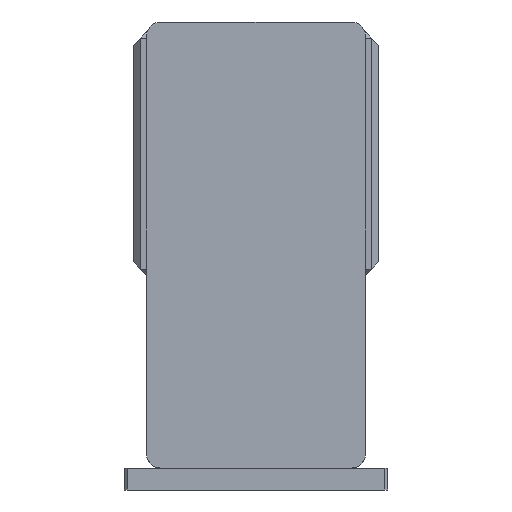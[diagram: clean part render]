
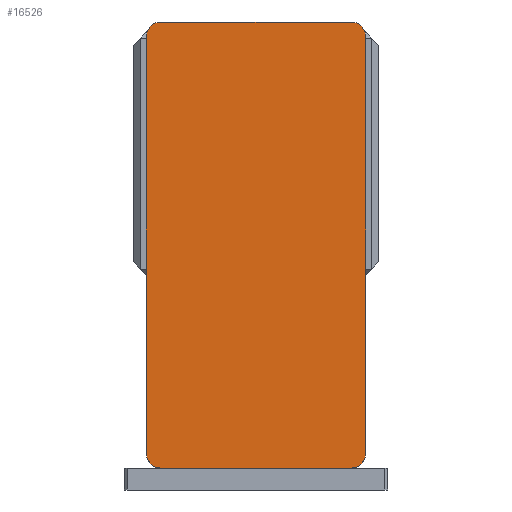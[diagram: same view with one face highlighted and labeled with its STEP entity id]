
A CAD part, left-side view. The second image highlights one B-rep face of the part: STEP entity #16526.
In plain terms, the highlighted planar face has unit normal (-1, 0, 0) as drawn and (0, 0, 1) by its records, which use the part's own axes.
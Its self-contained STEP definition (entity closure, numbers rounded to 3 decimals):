
#552 = CARTESIAN_POINT ( 'NONE',  ( -65., 152.5, 105. ) ) ;
#818 = AXIS2_PLACEMENT_3D ( 'NONE', #19529, #8670, #21368 ) ;
#855 = VECTOR ( 'NONE', #18388, 1000. ) ;
#1648 = AXIS2_PLACEMENT_3D ( 'NONE', #3805, #16339, #5594 ) ;
#1883 = DIRECTION ( 'NONE',  ( 0., 0., 1. ) ) ;
#3137 = CARTESIAN_POINT ( 'NONE',  ( -75., 152.5, 105. ) ) ;
#3249 = CARTESIAN_POINT ( 'NONE',  ( -75., 142.5, 105. ) ) ;
#3805 = CARTESIAN_POINT ( 'NONE',  ( 65., -142.5, 105. ) ) ;
#3841 = VERTEX_POINT ( 'NONE', #552 ) ;
#3890 = AXIS2_PLACEMENT_3D ( 'NONE', #12572, #1883, #14378 ) ;
#3931 = CARTESIAN_POINT ( 'NONE',  ( -75., -152.5, 105. ) ) ;
#4524 = CIRCLE ( 'NONE', #3890, 10. ) ;
#4856 = CIRCLE ( 'NONE', #1648, 10. ) ;
#5594 = DIRECTION ( 'NONE',  ( 1., 0., 0. ) ) ;
#6150 = LINE ( 'NONE', #3931, #855 ) ;
#6734 = DIRECTION ( 'NONE',  ( 1., 0., 0. ) ) ;
#7179 = DIRECTION ( 'NONE',  ( 0., 1., 0. ) ) ;
#7304 = VERTEX_POINT ( 'NONE', #3249 ) ;
#7317 = DIRECTION ( 'NONE',  ( 0., 0., 1. ) ) ;
#7359 = EDGE_CURVE ( 'NONE', #3841, #7304, #22605, .T. ) ;
#8597 = CARTESIAN_POINT ( 'NONE',  ( 65., -152.5, 105. ) ) ;
#8670 = DIRECTION ( 'NONE',  ( 0., 0., 1. ) ) ;
#8920 = AXIS2_PLACEMENT_3D ( 'NONE', #18111, #7317, #19973 ) ;
#9197 = VECTOR ( 'NONE', #20325, 1000. ) ;
#9564 = VERTEX_POINT ( 'NONE', #10969 ) ;
#10090 = VERTEX_POINT ( 'NONE', #19778 ) ;
#10744 = ORIENTED_EDGE ( 'NONE', *, *, #16820, .T. ) ;
#10969 = CARTESIAN_POINT ( 'NONE',  ( -75., -142.5, 105. ) ) ;
#11126 = EDGE_CURVE ( 'NONE', #13750, #12940, #4856, .T. ) ;
#12339 = EDGE_CURVE ( 'NONE', #16806, #23291, #4524, .T. ) ;
#12572 = CARTESIAN_POINT ( 'NONE',  ( 65., 142.5, 105. ) ) ;
#12940 = VERTEX_POINT ( 'NONE', #19553 ) ;
#13167 = VECTOR ( 'NONE', #7179, 1000. ) ;
#13168 = VECTOR ( 'NONE', #15644, 1000. ) ;
#13546 = ORIENTED_EDGE ( 'NONE', *, *, #7359, .T. ) ;
#13750 = VERTEX_POINT ( 'NONE', #8597 ) ;
#13768 = PLANE ( 'NONE',  #16619 ) ;
#13841 = ORIENTED_EDGE ( 'NONE', *, *, #15007, .T. ) ;
#14378 = DIRECTION ( 'NONE',  ( 1., 0., 0. ) ) ;
#14553 = LINE ( 'NONE', #18461, #9197 ) ;
#15007 = EDGE_CURVE ( 'NONE', #12940, #16806, #17434, .T. ) ;
#15084 = CIRCLE ( 'NONE', #8920, 10. ) ;
#15644 = DIRECTION ( 'NONE',  ( -1., 0., 0. ) ) ;
#15676 = CARTESIAN_POINT ( 'NONE',  ( 0., 0., 105. ) ) ;
#16075 = EDGE_CURVE ( 'NONE', #10090, #13750, #6150, .T. ) ;
#16116 = EDGE_CURVE ( 'NONE', #7304, #9564, #14553, .T. ) ;
#16339 = DIRECTION ( 'NONE',  ( 0., 0., 1. ) ) ;
#16526 = ADVANCED_FACE ( 'NONE', ( #17977 ), #13768, .T. ) ;
#16537 = ORIENTED_EDGE ( 'NONE', *, *, #16116, .T. ) ;
#16619 = AXIS2_PLACEMENT_3D ( 'NONE', #15676, #17511, #6734 ) ;
#16806 = VERTEX_POINT ( 'NONE', #18039 ) ;
#16820 = EDGE_CURVE ( 'NONE', #9564, #10090, #15084, .T. ) ;
#17434 = LINE ( 'NONE', #19828, #13167 ) ;
#17511 = DIRECTION ( 'NONE',  ( 0., 0., 1. ) ) ;
#17861 = ORIENTED_EDGE ( 'NONE', *, *, #12339, .T. ) ;
#17977 = FACE_OUTER_BOUND ( 'NONE', #18061, .T. ) ;
#18039 = CARTESIAN_POINT ( 'NONE',  ( 75., 142.5, 105. ) ) ;
#18061 = EDGE_LOOP ( 'NONE', ( #18271, #21273, #13841, #17861, #18914, #13546, #16537, #10744 ) ) ;
#18111 = CARTESIAN_POINT ( 'NONE',  ( -65., -142.5, 105. ) ) ;
#18271 = ORIENTED_EDGE ( 'NONE', *, *, #16075, .T. ) ;
#18388 = DIRECTION ( 'NONE',  ( 1., 0., 0. ) ) ;
#18461 = CARTESIAN_POINT ( 'NONE',  ( -75., 152.5, 105. ) ) ;
#18805 = CARTESIAN_POINT ( 'NONE',  ( 65., 152.5, 105. ) ) ;
#18914 = ORIENTED_EDGE ( 'NONE', *, *, #22775, .T. ) ;
#19529 = CARTESIAN_POINT ( 'NONE',  ( -65., 142.5, 105. ) ) ;
#19553 = CARTESIAN_POINT ( 'NONE',  ( 75., -142.5, 105. ) ) ;
#19778 = CARTESIAN_POINT ( 'NONE',  ( -65., -152.5, 105. ) ) ;
#19828 = CARTESIAN_POINT ( 'NONE',  ( 75., 152.5, 105. ) ) ;
#19973 = DIRECTION ( 'NONE',  ( 1., 0., 0. ) ) ;
#20325 = DIRECTION ( 'NONE',  ( 0., -1., 0. ) ) ;
#21273 = ORIENTED_EDGE ( 'NONE', *, *, #11126, .T. ) ;
#21368 = DIRECTION ( 'NONE',  ( 1., 0., 0. ) ) ;
#22241 = LINE ( 'NONE', #3137, #13168 ) ;
#22605 = CIRCLE ( 'NONE', #818, 10. ) ;
#22775 = EDGE_CURVE ( 'NONE', #23291, #3841, #22241, .T. ) ;
#23291 = VERTEX_POINT ( 'NONE', #18805 ) ;
